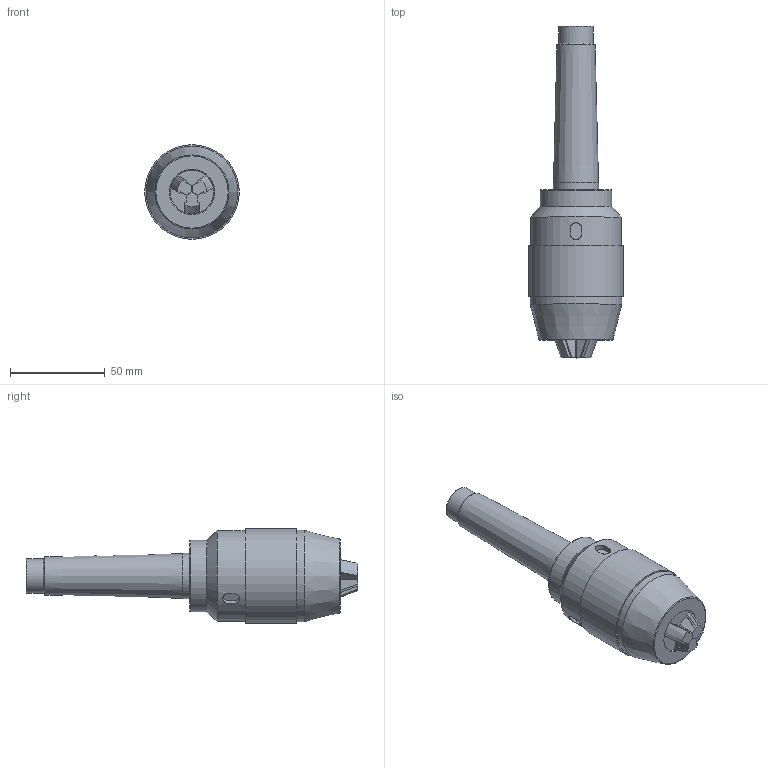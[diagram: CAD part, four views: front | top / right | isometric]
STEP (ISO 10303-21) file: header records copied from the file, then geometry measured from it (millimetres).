
FILE_DESCRIPTION(/* description */ (''),/* implementation_level */ '2;1');
FILE_NAME(/* name */ 'MTB3-APU13.stp',/* time_stamp */ '2025-06-11T13:41:30+03:00',/* author */ ('User'),/* organization */ (''),/* preprocessor_version */ 'ST-DEVELOPER v19.2',/* originating_system */ 'Autodesk Inventor 2024',/* authorisation */ '');
FILE_SCHEMA (('AUTOMOTIVE_DESIGN { 1 0 10303 214 3 1 1 }'));
Length unit declared in the file: millimetre
Products named in the file (1): BT40-APU16-120L
Bounding box: 50 x 175.5 x 50 mm (x, y, z)
Volume: 164206.9 mm3; surface area: 22438.1 mm2
Topology: 1 solids, 1 shells, 86 faces, 212 edges, 140 vertices
Faces by surface type: plane 59, cylinder 15, cone 9, torus 3
Full cylindrical faces by diameter (mm): 10.5 x1, 12.5 x1, 18 x1, 23.805 x1, 24 x1, 38 x1, 48 x1, 48.5 x1, 50 x1
Entity records: 2686 total; most frequent: CARTESIAN_POINT 559, ORIENTED_EDGE 424, DIRECTION 418, EDGE_CURVE 212, LINE 144, VECTOR 144, VERTEX_POINT 140, AXIS2_PLACEMENT_3D 137
